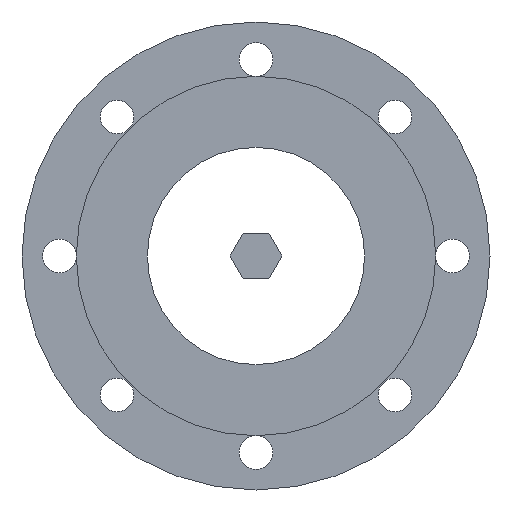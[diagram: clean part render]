
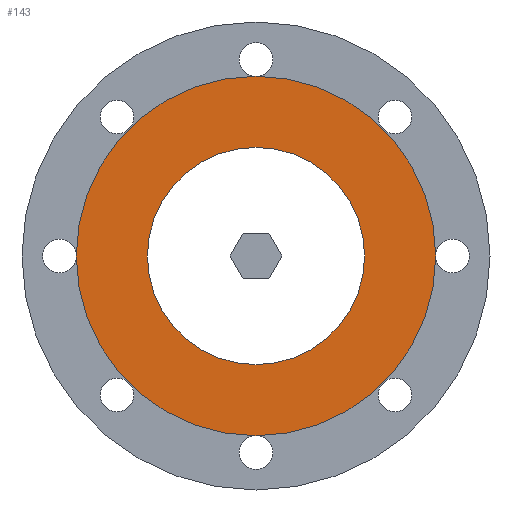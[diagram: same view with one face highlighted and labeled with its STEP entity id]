
A CAD part, front view. The second image highlights one B-rep face of the part: STEP entity #143.
In plain terms, the highlighted planar face has unit normal (0, -1, 0).
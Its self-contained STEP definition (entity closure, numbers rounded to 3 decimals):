
#143 = ADVANCED_FACE( '', ( #270, #271 ), #272, .T. );
#270 = FACE_OUTER_BOUND( '', #396, .T. );
#271 = FACE_BOUND( '', #397, .T. );
#272 = PLANE( '', #398 );
#396 = EDGE_LOOP( '', ( #562 ) );
#397 = EDGE_LOOP( '', ( #563 ) );
#398 = AXIS2_PLACEMENT_3D( '', #564, #565, #566 );
#562 = ORIENTED_EDGE( '', *, *, #683, .T. );
#563 = ORIENTED_EDGE( '', *, *, #647, .F. );
#564 = CARTESIAN_POINT( '', ( 58., 0., 0. ) );
#565 = DIRECTION( '', ( 0., -1., 0. ) );
#566 = DIRECTION( '', ( 0., 0., -1. ) );
#647 = EDGE_CURVE( '', #725, #725, #726, .T. );
#683 = EDGE_CURVE( '', #783, #783, #784, .T. );
#725 = VERTEX_POINT( '', #841 );
#726 = CIRCLE( '', #842, 58. );
#783 = VERTEX_POINT( '', #904 );
#784 = CIRCLE( '', #905, 96. );
#841 = CARTESIAN_POINT( '', ( 0., 0., -58. ) );
#842 = AXIS2_PLACEMENT_3D( '', #948, #949, #950 );
#904 = CARTESIAN_POINT( '', ( 0., 0., -96. ) );
#905 = AXIS2_PLACEMENT_3D( '', #1013, #1014, #1015 );
#948 = CARTESIAN_POINT( '', ( 0., 0., 0. ) );
#949 = DIRECTION( '', ( 0., -1., 0. ) );
#950 = DIRECTION( '', ( 0., 0., -1. ) );
#1013 = CARTESIAN_POINT( '', ( 0., 0., 0. ) );
#1014 = DIRECTION( '', ( 0., -1., 0. ) );
#1015 = DIRECTION( '', ( 0., 0., -1. ) );
